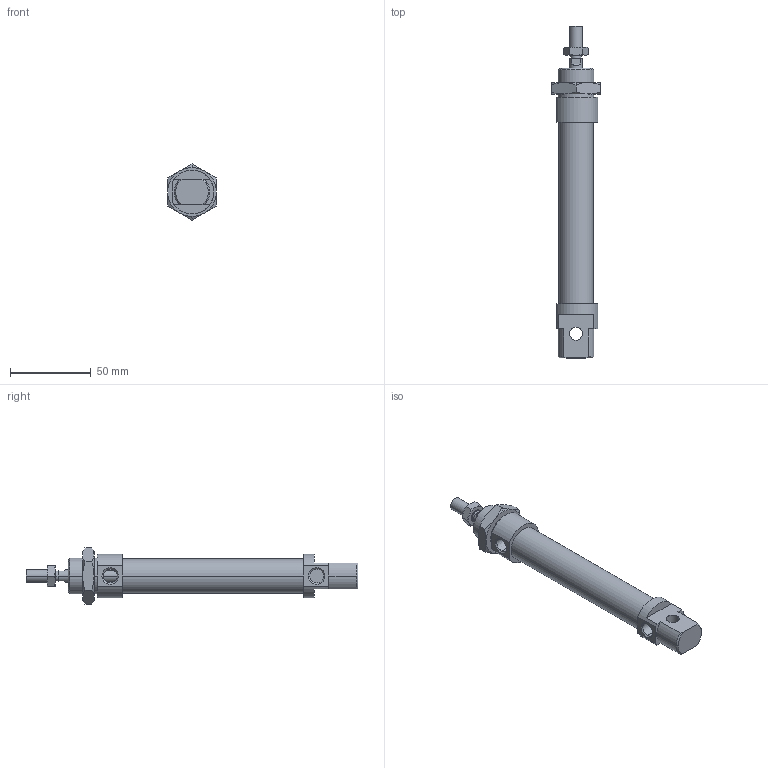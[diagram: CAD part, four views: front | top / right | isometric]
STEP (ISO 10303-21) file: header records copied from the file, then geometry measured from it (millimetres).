
FILE_DESCRIPTION((''),'2;1');
FILE_NAME('I:\DOC-EDP\Lib-3d\1200\CILINDRI\1280\1280_20_0075.stp','2003-04-07T15:51:05',('maffial1'),(''),'Autodesk Inventor (R) 6.0','Autodesk Inventor (R) 6.0','');
FILE_SCHEMA(('AUTOMOTIVE_DESIGN { 1 0 10303 214 1 1 1 1 }'));
Length unit declared in the file: millimetre
Products named in the file (5): 1280_20_0075; S1280_20_75; 1200_20_05; 1200_20_06; C1280_20_75
Assembly tree (4 placements, depth 2):
  1280_20_0075
    S1280_20_75
    1200_20_05
    1200_20_06
    C1280_20_75
Bounding box: 30 x 205 x 34.64 mm (x, y, z)
Volume: 70830.9 mm3; surface area: 23296.5 mm2
Topology: 4 solids, 4 shells, 124 faces, 281 edges, 170 vertices
Faces by surface type: plane 41, cone 40, cylinder 22, bspline 21
Entity records: 3816 total; most frequent: CARTESIAN_POINT 1039, DIRECTION 573, ORIENTED_EDGE 562, EDGE_CURVE 281, AXIS2_PLACEMENT_3D 236, VERTEX_POINT 170, EDGE_LOOP 137, FACE_OUTER_BOUND 124
